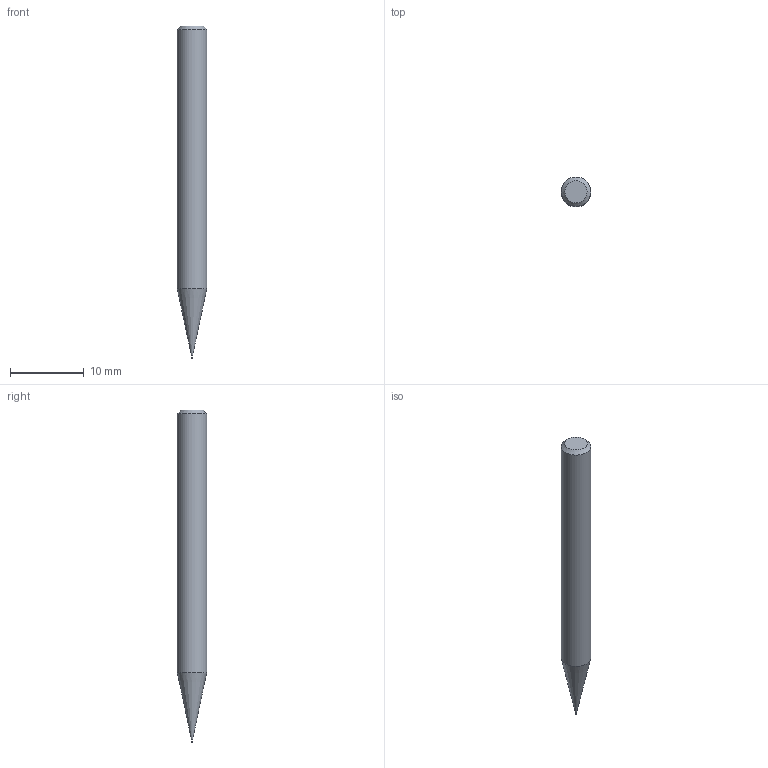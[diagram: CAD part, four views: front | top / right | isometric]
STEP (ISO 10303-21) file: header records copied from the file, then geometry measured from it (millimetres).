
FILE_DESCRIPTION((''),'2;1');
FILE_NAME('C:\Users\nsx150\AppData\Local\Temp\Mastercam 2021\3SYKECWX22\TEMP.step','2021-04-22T09:44:02',(''),(''),'STEP Write','Mastercam 2021 ... CNC Software, Inc.','');
FILE_SCHEMA(('AUTOMOTIVE_DESIGN'));
Length unit declared in the file: millimetre
Products named in the file (1): None
Bounding box: 4 x 4 x 45 mm (x, y, z)
Volume: 485.4 mm3; surface area: 516.6 mm2
Topology: 2 solids, 2 shells, 10 faces, 14 edges, 8 vertices
Faces by surface type: plane 4, cylinder 3, cone 2, torus 1
Full cylindrical faces by diameter (mm): 0.135 x1, 0.15 x1, 4 x1
Entity records: 232 total; most frequent: DIRECTION 40, CARTESIAN_POINT 28, AXIS2_PLACEMENT_3D 20, ORIENTED_EDGE 16, EDGE_LOOP 16, STYLED_ITEM 13, ADVANCED_FACE 10, FACE_BOUND 10
